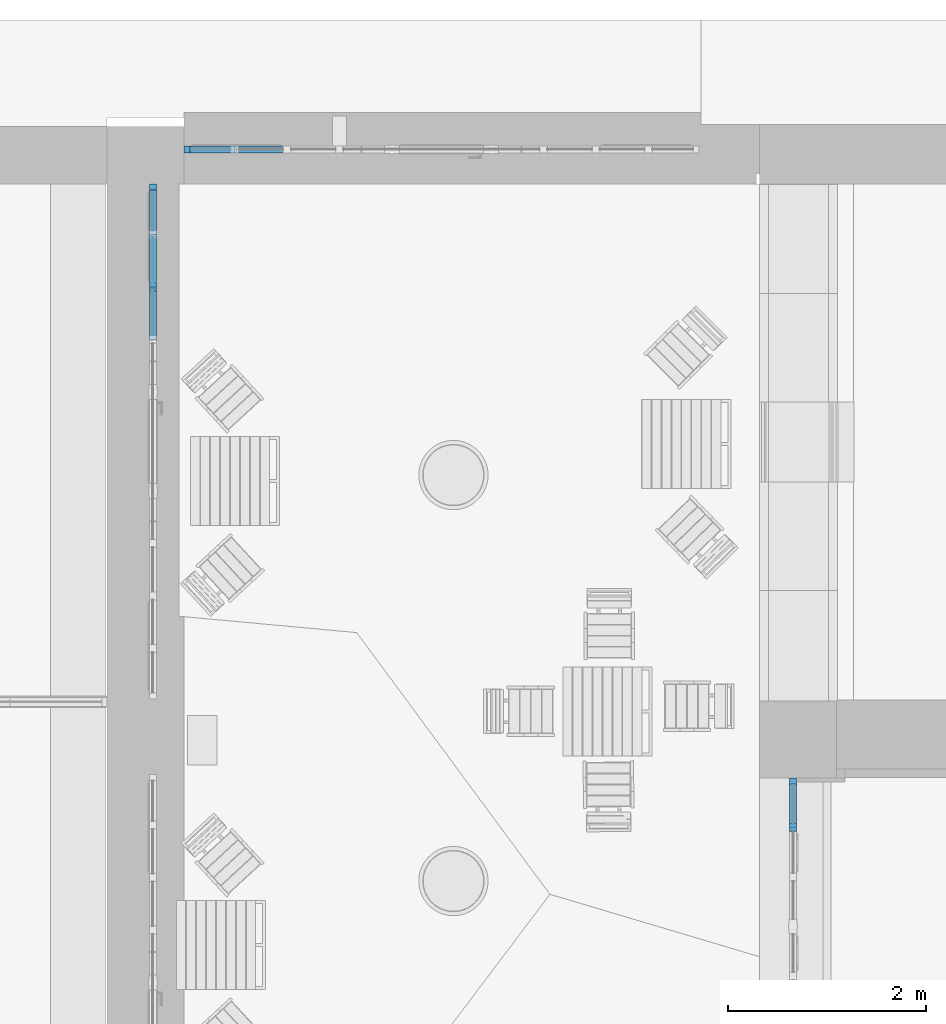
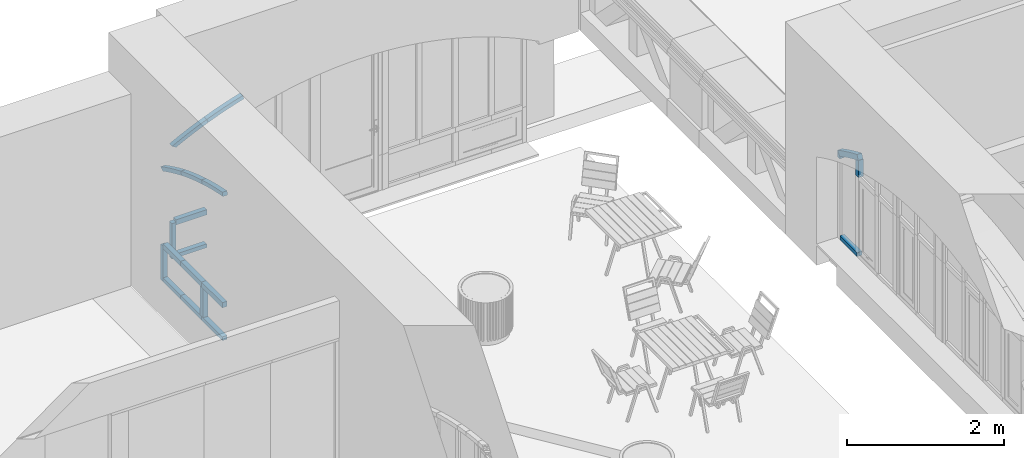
# One storey, part 47 of 88: 20 members, 3 elements without a shape of their own.
"""IFC2X3 building model written with IfcOpenShell, lengths in millimetres."""

from ifc_helpers import new_model, entity, si_unit, converted_unit, derived_unit, direction, frame, frame_2d, origin, place, context, subcontext, project, spatial, polyline, circle_curve, parameter, trimmed, segment, composite_curve, rectangle, outline, extrude, source, transform, mapped, material, type_object, type_shapes, element, aggregate, save


model = new_model("IFC2X3")

# Units and contexts
model_context = context("Model", 3, precision=0.01, world=origin(), true_north=direction((6.123031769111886e-17, 1.0)))
body_context = subcontext(model_context, "Body", "Model", "MODEL_VIEW")
ifc_project = project(units=[si_unit("LENGTHUNIT", "METRE", prefix="MILLI"), si_unit("AREAUNIT", "SQUARE_METRE"), si_unit("VOLUMEUNIT", "CUBIC_METRE"), converted_unit("PLANEANGLEUNIT", "DEGREE", entity("IfcPlaneAngleMeasure", 0.017453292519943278), si_unit("PLANEANGLEUNIT", "RADIAN"), dimensions=[0, 0, 0, 0, 0, 0, 0]), si_unit("MASSUNIT", "GRAM", prefix="KILO"), derived_unit("MASSDENSITYUNIT", [(si_unit("MASSUNIT", "GRAM", prefix="KILO"), 1), (si_unit("LENGTHUNIT", "METRE"), -3)]), derived_unit("IONCONCENTRATIONUNIT", [(si_unit("MASSUNIT", "GRAM", prefix="KILO"), 1), (si_unit("LENGTHUNIT", "METRE"), -3)]), derived_unit("MOMENTOFINERTIAUNIT", [(si_unit("LENGTHUNIT", "METRE"), 4)]), si_unit("TIMEUNIT", "SECOND"), si_unit("FREQUENCYUNIT", "HERTZ"), si_unit("THERMODYNAMICTEMPERATUREUNIT", "DEGREE_CELSIUS"), derived_unit("THERMALTRANSMITTANCEUNIT", [(si_unit("MASSUNIT", "GRAM", prefix="KILO"), 1), (si_unit("THERMODYNAMICTEMPERATUREUNIT", "KELVIN"), -1), (si_unit("TIMEUNIT", "SECOND"), -3)]), derived_unit("THERMALCONDUCTANCEUNIT", [(si_unit("MASSUNIT", "GRAM", prefix="KILO"), 1), (si_unit("THERMODYNAMICTEMPERATUREUNIT", "KELVIN"), -1), (si_unit("TIMEUNIT", "SECOND"), -3), (si_unit("LENGTHUNIT", "METRE"), 1)]), derived_unit("VOLUMETRICFLOWRATEUNIT", [(si_unit("LENGTHUNIT", "METRE", prefix="DECI"), 3), (si_unit("TIMEUNIT", "SECOND"), -1)]), derived_unit("MASSFLOWRATEUNIT", [(si_unit("MASSUNIT", "GRAM", prefix="KILO"), 1), (si_unit("TIMEUNIT", "SECOND"), -1)]), derived_unit("ROTATIONALFREQUENCYUNIT", [(si_unit("TIMEUNIT", "SECOND"), -1)]), si_unit("ELECTRICCURRENTUNIT", "AMPERE"), si_unit("ELECTRICVOLTAGEUNIT", "VOLT"), si_unit("POWERUNIT", "WATT"), si_unit("FORCEUNIT", "NEWTON", prefix="KILO"), si_unit("ILLUMINANCEUNIT", "LUX"), si_unit("LUMINOUSFLUXUNIT", "LUMEN"), si_unit("LUMINOUSINTENSITYUNIT", "CANDELA"), si_unit("ENERGYUNIT", "JOULE"), derived_unit("USERDEFINED", [(si_unit("MASSUNIT", "GRAM", prefix="KILO"), -1), (si_unit("LENGTHUNIT", "METRE"), -2), (si_unit("TIMEUNIT", "SECOND"), 3), (si_unit("LUMINOUSFLUXUNIT", "LUMEN"), 1)]), derived_unit("USERDEFINED", [(si_unit("MASSUNIT", "GRAM", prefix="KILO"), 1), (si_unit("TIMEUNIT", "SECOND"), -3), (si_unit("LENGTHUNIT", "METRE"), 3), (si_unit("ELECTRICCURRENTUNIT", "AMPERE"), -2)]), derived_unit("SOUNDPOWERUNIT", [(si_unit("MASSUNIT", "GRAM", prefix="KILO"), 1), (si_unit("TIMEUNIT", "SECOND"), -3), (si_unit("LENGTHUNIT", "METRE"), 2)]), derived_unit("SOUNDPRESSUREUNIT", [(si_unit("MASSUNIT", "GRAM", prefix="KILO"), 1), (si_unit("LENGTHUNIT", "METRE"), -1), (si_unit("TIMEUNIT", "SECOND"), -2)]), derived_unit("LINEARVELOCITYUNIT", [(si_unit("LENGTHUNIT", "METRE"), 1), (si_unit("TIMEUNIT", "SECOND"), -1)]), si_unit("PRESSUREUNIT", "PASCAL"), derived_unit("USERDEFINED", [(si_unit("MASSUNIT", "GRAM", prefix="KILO"), 1), (si_unit("LENGTHUNIT", "METRE"), -2), (si_unit("TIMEUNIT", "SECOND"), -2)]), derived_unit("LINEARFORCEUNIT", [(si_unit("MASSUNIT", "GRAM", prefix="KILO"), 1), (si_unit("TIMEUNIT", "SECOND"), -2)]), derived_unit("PLANARFORCEUNIT", [(si_unit("MASSUNIT", "GRAM", prefix="KILO"), 1), (si_unit("LENGTHUNIT", "METRE"), -1), (si_unit("TIMEUNIT", "SECOND"), -2)]), derived_unit("SPECIFICHEATCAPACITYUNIT", [(si_unit("THERMODYNAMICTEMPERATUREUNIT", "KELVIN"), -1), (si_unit("LENGTHUNIT", "METRE"), 2), (si_unit("TIMEUNIT", "SECOND"), -2)]), derived_unit("HEATFLUXDENSITYUNIT", [(si_unit("MASSUNIT", "GRAM", prefix="KILO"), 1), (si_unit("TIMEUNIT", "SECOND"), -3)]), derived_unit("HEATINGVALUEUNIT", [(si_unit("LENGTHUNIT", "METRE"), 2), (si_unit("TIMEUNIT", "SECOND"), -2)]), derived_unit("VAPORPERMEABILITYUNIT", [(si_unit("LENGTHUNIT", "METRE"), -1), (si_unit("TIMEUNIT", "SECOND"), 1)]), derived_unit("DYNAMICVISCOSITYUNIT", [(si_unit("MASSUNIT", "GRAM", prefix="KILO"), 1), (si_unit("TIMEUNIT", "SECOND"), -1), (si_unit("LENGTHUNIT", "METRE"), -1)]), derived_unit("THERMALEXPANSIONCOEFFICIENTUNIT", [(si_unit("THERMODYNAMICTEMPERATUREUNIT", "KELVIN"), -1)]), derived_unit("MODULUSOFELASTICITYUNIT", [(si_unit("MASSUNIT", "GRAM", prefix="KILO"), 1), (si_unit("LENGTHUNIT", "METRE"), -1), (si_unit("TIMEUNIT", "SECOND"), -2)]), derived_unit("ISOTHERMALMOISTURECAPACITYUNIT", [(si_unit("MASSUNIT", "GRAM", prefix="KILO"), -1), (si_unit("LENGTHUNIT", "METRE"), 3)]), derived_unit("MOISTUREDIFFUSIVITYUNIT", [(si_unit("TIMEUNIT", "SECOND"), -1), (si_unit("LENGTHUNIT", "METRE"), 2)]), derived_unit("MASSPERLENGTHUNIT", [(si_unit("MASSUNIT", "GRAM", prefix="KILO"), 1), (si_unit("LENGTHUNIT", "METRE"), -1)]), derived_unit("THERMALRESISTANCEUNIT", [(si_unit("MASSUNIT", "GRAM", prefix="KILO"), -1), (si_unit("TIMEUNIT", "SECOND"), 3), (si_unit("THERMODYNAMICTEMPERATUREUNIT", "KELVIN"), 1)]), derived_unit("ACCELERATIONUNIT", [(si_unit("LENGTHUNIT", "METRE"), 1), (si_unit("TIMEUNIT", "SECOND"), -2)]), derived_unit("ANGULARVELOCITYUNIT", [(si_unit("TIMEUNIT", "SECOND"), -1), (si_unit("PLANEANGLEUNIT", "RADIAN"), 1)]), derived_unit("LINEARSTIFFNESSUNIT", [(si_unit("MASSUNIT", "GRAM", prefix="KILO"), 1), (si_unit("TIMEUNIT", "SECOND"), -2)]), derived_unit("WARPINGCONSTANTUNIT", [(si_unit("LENGTHUNIT", "METRE"), 6)]), derived_unit("LINEARMOMENTUNIT", [(si_unit("MASSUNIT", "GRAM", prefix="KILO"), 1), (si_unit("LENGTHUNIT", "METRE"), 1), (si_unit("TIMEUNIT", "SECOND"), -2)]), derived_unit("TORQUEUNIT", [(si_unit("MASSUNIT", "GRAM", prefix="KILO"), 1), (si_unit("LENGTHUNIT", "METRE"), 2), (si_unit("TIMEUNIT", "SECOND"), -2)])], contexts=[model_context])

# Site, building, storey
site_placement = place(None, origin())
site = spatial("IfcSite", under=ifc_project, at=site_placement, Name="Default", CompositionType="ELEMENT")
building_placement = place(site_placement, origin())
building = spatial("IfcBuilding", under=site, at=building_placement, Name="Eesti Rahvusraamatukogu hoone renoveerimise projekteerimistööd", CompositionType="ELEMENT")
storey_placement = place(building_placement, origin())
storey = spatial("IfcBuildingStorey", under=building, at=storey_placement, Name="1. korrus", CompositionType="ELEMENT", Elevation=0.0)

# Curtain wall, members
curtain_wall_type_1 = type_object("IfcCurtainWallType", Name="Curtain Wall:Ak-02", PredefinedType="NOTDEFINED")
curtain_wall_1_placement = place(storey_placement, origin())
curtain_wall_1 = element("IfcCurtainWall", 1, at=curtain_wall_1_placement, inside=storey, type_object=curtain_wall_type_1, Name="Curtain Wall:Ak-02", ObjectType="Curtain Wall:Ak-02")
ifc_material = material(Name="LUMION_dark steel window frames")
member_type_1 = type_object("IfcMemberType", Name="Rectangular Mullion:NEW 80x70mm", PredefinedType="MULLION", material=ifc_material)
shared_shape_1 = source(origin(), body_context, "Body", "SweptSolid", [
    extrude(outline(composite_curve([segment(trimmed(circle_curve(frame_2d((5127.857298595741, 1916.0902897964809), x_axis=(-0.9185017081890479, -0.39541701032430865)), 5520.7156800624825), [parameter(354.2613575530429)], [parameter(359.99999999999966)], True, "PARAMETER"), True, "CONTINUOUS"), segment(polyline([(57.07051603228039, -266.8945992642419), (130.55065268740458, -235.2612384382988)]), True, "CONTINUOUS"), segment(trimmed(circle_curve(frame_2d((5127.857298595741, 1916.0902897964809), x_axis=(-0.9185017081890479, -0.39541701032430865)), 5440.7156800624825), [parameter(354.52804849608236)], [parameter(359.99999999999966)], True, "PARAMETER"), False, "CONTINUOUS"), segment(polyline([(-51.82617782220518, 251.07791885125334), (-135.79499089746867, 251.0779188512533)]), True, "CONTINUOUS")], self_intersect=False)), frame((-53.11529804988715, -35.0, -267.709798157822), z_axis=(0.0, -1.0, 0.0), x_axis=(-0.918501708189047, 0.0, 0.3954170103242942)), (0.0, 0.0, -1.0), 69.99999999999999),
])
type_shapes(member_type_1, [shared_shape_1])
member_1_placement = place(curtain_wall_1_placement, frame((-36440.0, 47490.0, 3565.568744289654), z_axis=(0.0, -0.9248280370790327, 0.38038546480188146), x_axis=(0.0, 0.38038546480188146, 0.9248280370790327)))
member_1 = element("IfcMember", 2, at=member_1_placement, type_object=member_type_1, material=ifc_material, Name="Rectangular Mullion:NEW 80x70mm", ObjectType="Rectangular Mullion:NEW 80x70mm", context=body_context, shape_type="MappedRepresentation", body=[
    mapped(shared_shape_1, transform((0.0, 0.0, 0.0), scale=1.0)),
])
member_type_2 = type_object("IfcMemberType", Name="Rectangular Mullion:NEW 80x70mm", PredefinedType="MULLION", material=ifc_material)
shared_shape_2 = source(origin(), body_context, "Body", "SweptSolid", [
    extrude(outline(composite_curve([segment(polyline([(-151.82490852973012, -33.91383256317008), (113.68279751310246, -33.91383256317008)]), True, "CONTINUOUS"), segment(trimmed(circle_curve(frame_2d((-4921.968809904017, -2093.9138325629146), x_axis=(0.9570819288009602, 0.2898174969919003)), 5440.715680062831), [parameter(5.401610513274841)], [parameter(5.510531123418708)], True, "PARAMETER"), True, "CONTINUOUS"), segment(trimmed(circle_curve(frame_2d((-4921.968809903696, -2093.9138325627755), x_axis=(0.9248280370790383, 0.38038546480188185)), 5440.7156800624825), [parameter(0.0)], [parameter(0.8043376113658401)], True, "PARAMETER"), True, "CONTINUOUS"), segment(polyline([(80.20942675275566, 46.08616743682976), (-151.82490852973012, 46.08616743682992)]), True, "CONTINUOUS"), segment(polyline([(-151.82490852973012, 46.08616743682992), (-151.82490852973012, -33.91383256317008)]), True, "CONTINUOUS")], self_intersect=False)), frame((6.086167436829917, -35.0, -151.82490852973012), z_axis=(0.0, 1.0, 0.0), x_axis=(0.0, 0.0, -1.0)), (0.0, 0.0, 1.0), 69.99999999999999),
])
type_shapes(member_type_2, [shared_shape_2])
member_2_placement = place(curtain_wall_1_placement, frame((-36440.0, 47490.0, 3230.0), z_axis=(0.0, 0.0, -1.0), x_axis=(0.0, -1.0, 0.0)))
member_2 = element("IfcMember", 3, at=member_2_placement, type_object=member_type_2, material=ifc_material, Name="Rectangular Mullion:NEW 80x70mm", ObjectType="Rectangular Mullion:NEW 80x70mm", context=body_context, shape_type="MappedRepresentation", body=[
    mapped(shared_shape_2, transform((0.0, 0.0, 0.0), scale=1.0)),
])
member_type_3 = type_object("IfcMemberType", Name="Rectangular Mullion:NEW 60x70mm", PredefinedType="MULLION", material=ifc_material)
shared_shape_3 = source(origin(), body_context, "Body", "SweptSolid", [
    extrude(rectangle(XDim=60.0, YDim=70.0, at=frame_2d((0.0, 3.552713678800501e-15), x_axis=(1.0, 0.0))), frame((-30.0, 0.0, -440.0), z_axis=(0.0, 0.0, 1.0), x_axis=(-1.0, 0.0, 0.0)), (0.0, 0.0, 1.0), 439.9999999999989),
])
type_shapes(member_type_3, [shared_shape_3])
member_3_placement = place(curtain_wall_1_placement, frame((-36440.0, 47930.0, 1980.0), z_axis=(0.0, 1.0, 0.0), x_axis=(0.0, 0.0, -1.0)))
member_3 = element("IfcMember", 4, at=member_3_placement, type_object=member_type_3, material=ifc_material, Name="Rectangular Mullion:NEW 60x70mm", ObjectType="Rectangular Mullion:NEW 60x70mm", context=body_context, shape_type="MappedRepresentation", body=[
    mapped(shared_shape_3, transform((0.0, 0.0, 0.0), scale=1.0)),
])
member_type_4 = type_object("IfcMemberType", Name="Rectangular Mullion:NEW 60x70mm", PredefinedType="MULLION", material=ifc_material)
shared_shape_4 = source(origin(), body_context, "Body", "SweptSolid", [
    extrude(outline(polyline([(-64.66369681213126, -30.0), (35.336303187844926, -30.0), (35.336303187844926, 30.0), (-6.008909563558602, 30.0), (-64.66369681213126, -30.0)])), frame((-30.0, -35.0, -64.66369681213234), z_axis=(0.0, 1.0, 0.0), x_axis=(0.0, 0.0, -1.0)), (0.0, 0.0, 1.0), 69.99999999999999),
])
type_shapes(member_type_4, [shared_shape_4])
member_4_placement = place(curtain_wall_1_placement, frame((-36440.0, 47990.0, 3330.0), z_axis=(0.0, 0.0, 1.0), x_axis=(0.0, 1.0, 0.0)))
member_4 = element("IfcMember", 5, at=member_4_placement, type_object=member_type_4, material=ifc_material, Name="Rectangular Mullion:NEW 60x70mm", ObjectType="Rectangular Mullion:NEW 60x70mm", context=body_context, shape_type="MappedRepresentation", body=[
    mapped(shared_shape_4, transform((0.0, 0.0, 0.0), scale=1.0)),
])
aggregate(curtain_wall_1, [member_1, member_2, member_3, member_4])

# Curtain wall, member
curtain_wall_type_2 = type_object("IfcCurtainWallType", Name="Curtain Wall:Ak-05", PredefinedType="NOTDEFINED")
curtain_wall_2_placement = place(storey_placement, origin())
curtain_wall_2 = element("IfcCurtainWall", 6, at=curtain_wall_2_placement, inside=storey, type_object=curtain_wall_type_2, Name="Curtain Wall:Ak-05", ObjectType="Curtain Wall:Ak-05")
member_type_5 = type_object("IfcMemberType", Name="Rectangular Mullion:NEW 60x70mm", PredefinedType="MULLION", material=ifc_material)
shared_shape_5 = source(origin(), body_context, "Body", "SweptSolid", [
    extrude(outline(composite_curve([segment(polyline([(-44.19959331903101, -278.92780712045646), (15.800406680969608, -278.9278071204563)]), True, "CONTINUOUS"), segment(trimmed(circle_curve(frame_2d((5479.080973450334, -278.9278071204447), x_axis=(-0.9948301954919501, 0.10155236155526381)), 5463.280566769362), [parameter(3.5622212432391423e-13)], [parameter(5.828569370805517)], True, "PARAMETER"), False, "CONTINUOUS"), segment(polyline([(44.04449918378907, 275.8812362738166), (-15.645312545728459, 281.97437796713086)]), True, "CONTINUOUS"), segment(trimmed(circle_curve(frame_2d((5479.080973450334, -278.9278071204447), x_axis=(-0.9948301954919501, 0.10155236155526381)), 5523.280566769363), [parameter(3.5622212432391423e-13)], [parameter(5.828569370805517)], True, "PARAMETER"), True, "CONTINUOUS")], self_intersect=False)), frame((-44.19959331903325, -35.0, -278.9278071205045), z_axis=(0.0, 1.0, 0.0), x_axis=(-0.9948301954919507, 0.0, 0.10155236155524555)), (0.0, 0.0, 1.0), 69.99999999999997),
])
type_shapes(member_type_5, [shared_shape_5])
member_5_placement = place(curtain_wall_2_placement, frame((-42080.0, 54340.0, 1939.304710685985), z_axis=(-0.9256428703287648, 0.0, -0.37839830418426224), x_axis=(-0.37839830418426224, 0.0, 0.9256428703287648)))
member_5 = element("IfcMember", 7, at=member_5_placement, type_object=member_type_5, material=ifc_material, Name="Rectangular Mullion:NEW 60x70mm", ObjectType="Rectangular Mullion:NEW 60x70mm", context=body_context, shape_type="MappedRepresentation", body=[
    mapped(shared_shape_5, transform((0.0, 0.0, 0.0), scale=1.0)),
])

# Curtain wall, members
curtain_wall_3_placement = place(storey_placement, origin())
curtain_wall_3 = element("IfcCurtainWall", 8, at=curtain_wall_3_placement, inside=storey, type_object=curtain_wall_type_2, Name="Curtain Wall:Ak-05", ObjectType="Curtain Wall:Ak-05")
member_type_6 = type_object("IfcMemberType", Name="Rectangular Mullion:NEW 60x70mm", PredefinedType="MULLION", material=ifc_material)
shared_shape_6 = source(origin(), body_context, "Body", "SweptSolid", [
    extrude(outline(composite_curve([segment(trimmed(circle_curve(frame_2d((4549.812785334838, 3066.2072493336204), x_axis=(-0.8006634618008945, -0.5991143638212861)), 5523.280566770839), [parameter(354.15250498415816)], [parameter(359.99999999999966)], True, "PARAMETER"), True, "CONTINUOUS"), segment(polyline([(127.52384624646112, -242.86947363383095), (175.56365395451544, -206.92261180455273)]), True, "CONTINUOUS"), segment(trimmed(circle_curve(frame_2d((4549.812785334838, 3066.2072493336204), x_axis=(-0.8006634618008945, -0.5991143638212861)), 5463.280566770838), [parameter(354.53073311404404)], [parameter(359.99999999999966)], True, "PARAMETER"), False, "CONTINUOUS"), segment(polyline([(-116.49037438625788, 224.89604271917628), (-186.59712581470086, 224.89604271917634)]), True, "CONTINUOUS")], self_intersect=False)), frame((-43.402905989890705, -35.0, -270.85808154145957), z_axis=(0.0, -1.0, 0.0), x_axis=(-0.800663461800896, 0.0, 0.5991143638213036)), (0.0, 0.0, -1.0), 69.99999999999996),
])
type_shapes(member_type_6, [shared_shape_6])
member_6_placement = place(curtain_wall_3_placement, frame((-42905.0, 53480.0, 1939.304710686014), z_axis=(0.0, -0.9256428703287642, 0.3783983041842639), x_axis=(0.0, 0.3783983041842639, 0.9256428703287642)))
member_6 = element("IfcMember", 9, at=member_6_placement, type_object=member_type_6, material=ifc_material, Name="Rectangular Mullion:NEW 60x70mm", ObjectType="Rectangular Mullion:NEW 60x70mm", context=body_context, shape_type="MappedRepresentation", body=[
    mapped(shared_shape_6, transform((0.0, 0.0, 0.0), scale=1.0)),
])
member_type_7 = type_object("IfcMemberType", Name="Rectangular Mullion:NEW 60x70mm", PredefinedType="MULLION", material=ifc_material)
shared_shape_7 = source(origin(), body_context, "Body", "SweptSolid", [
    extrude(outline(composite_curve([segment(polyline([(-44.19959331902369, -278.9278071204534), (15.8004066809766, -278.92780712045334)]), True, "CONTINUOUS"), segment(trimmed(circle_curve(frame_2d((5479.0809734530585, -278.9278071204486), x_axis=(-0.9948301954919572, 0.10155236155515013)), 5463.28056677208), [parameter(3.5622212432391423e-13)], [parameter(5.828569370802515)], True, "PARAMETER"), False, "CONTINUOUS"), segment(polyline([(44.04449918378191, 275.88123627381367), (-15.645312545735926, 281.97437796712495)]), True, "CONTINUOUS"), segment(trimmed(circle_curve(frame_2d((5479.0809734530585, -278.9278071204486), x_axis=(-0.9948301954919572, 0.10155236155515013)), 5523.28056677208), [parameter(3.5622212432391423e-13)], [parameter(5.828569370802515)], True, "PARAMETER"), True, "CONTINUOUS")], self_intersect=False)), frame((-44.199593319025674, -35.0, -278.9278071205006), z_axis=(0.0, 1.0, 0.0), x_axis=(-0.994830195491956, 0.0, 0.1015523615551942)), (0.0, 0.0, 1.0), 70.0),
])
type_shapes(member_type_7, [shared_shape_7])
member_7_placement = place(curtain_wall_3_placement, frame((-42905.0, 52950.0, 2125.118079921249), z_axis=(0.0, -0.9592847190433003, 0.2824408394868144), x_axis=(0.0, 0.2824408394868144, 0.9592847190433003)))
member_7 = element("IfcMember", 10, at=member_7_placement, type_object=member_type_7, material=ifc_material, Name="Rectangular Mullion:NEW 60x70mm", ObjectType="Rectangular Mullion:NEW 60x70mm", context=body_context, shape_type="MappedRepresentation", body=[
    mapped(shared_shape_7, transform((0.0, 0.0, 0.0), scale=1.0)),
])
member_type_8 = type_object("IfcMemberType", Name="Rectangular Mullion:NEW 60x70mm", PredefinedType="MULLION", material=ifc_material)
shared_shape_8 = source(origin(), body_context, "Body", "SweptSolid", [
    extrude(outline(composite_curve([segment(polyline([(-43.38278695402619, -270.80676601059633), (16.61721304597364, -270.8067660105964)]), True, "CONTINUOUS"), segment(trimmed(circle_curve(frame_2d((5479.897779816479, -270.8067660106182), x_axis=(-0.9951275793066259, 0.0985956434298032)), 5463.280566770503), [parameter(3.5622212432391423e-13)], [parameter(5.658307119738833)], True, "PARAMETER"), False, "CONTINUOUS"), segment(polyline([(43.23661433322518, 267.848896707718), (-16.471040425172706, 273.76463531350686)]), True, "CONTINUOUS"), segment(trimmed(circle_curve(frame_2d((5479.897779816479, -270.8067660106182), x_axis=(-0.9951275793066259, 0.0985956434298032)), 5523.280566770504), [parameter(3.5622212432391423e-13)], [parameter(5.658307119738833)], True, "PARAMETER"), True, "CONTINUOUS")], self_intersect=False)), frame((-43.38278695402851, -35.0, -270.8067660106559), z_axis=(0.0, 1.0, 0.0), x_axis=(-0.9951275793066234, 0.0, 0.09859564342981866)), (0.0, 0.0, 1.0), 69.99999999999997),
])
type_shapes(member_type_8, [shared_shape_8])
member_8_placement = place(curtain_wall_3_placement, frame((-42905.0, 52420.0, 2253.1112564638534), z_axis=(0.0, -0.9824581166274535, 0.18648337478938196), x_axis=(0.0, 0.18648337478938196, 0.9824581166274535)))
member_8 = element("IfcMember", 11, at=member_8_placement, type_object=member_type_8, material=ifc_material, Name="Rectangular Mullion:NEW 60x70mm", ObjectType="Rectangular Mullion:NEW 60x70mm", context=body_context, shape_type="MappedRepresentation", body=[
    mapped(shared_shape_8, transform((0.0, 0.0, 0.0), scale=1.0)),
])

# Member
member_type_9 = type_object("IfcMemberType", Name="Rectangular Mullion:NEW 60x70mm", PredefinedType="MULLION", material=ifc_material)
shared_shape_9 = source(origin(), body_context, "Body", "SweptSolid", [
    extrude(outline(composite_curve([segment(polyline([(-43.402905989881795, -270.8580815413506), (16.59709401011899, -270.85808154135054)]), True, "CONTINUOUS"), segment(trimmed(circle_curve(frame_2d((5479.877660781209, -270.8580815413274), x_axis=(-0.9947965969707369, 0.10188096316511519)), 5463.280566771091), [parameter(0.37822812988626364)], [parameter(5.847495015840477)], True, "PARAMETER"), False, "CONTINUOUS"), segment(polyline([(41.46886313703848, 249.85710065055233), (-14.66305115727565, 291.85906243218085)]), True, "CONTINUOUS"), segment(trimmed(circle_curve(frame_2d((5479.877660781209, -270.8580815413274), x_axis=(-0.9947965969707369, 0.10188096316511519)), 5523.280566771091), [parameter(3.5622212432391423e-13)], [parameter(5.847495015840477)], True, "PARAMETER"), True, "CONTINUOUS")], self_intersect=False)), frame((-44.32163578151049, -35.0, -288.84651632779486), z_axis=(0.0, 1.0, 0.0), x_axis=(-0.9947965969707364, 0.0, 0.10188096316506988)), (0.0, 0.0, 1.0), 69.99999999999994),
])
type_shapes(member_type_9, [shared_shape_9])
member_9_placement = place(curtain_wall_2_placement, frame((-42590.0, 54340.0, 1699.7706559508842), z_axis=(-0.8822747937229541, 0.0, -0.47073473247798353), x_axis=(-0.47073473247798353, 0.0, 0.8822747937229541)))
member_9 = element("IfcMember", 12, at=member_9_placement, type_object=member_type_9, material=ifc_material, Name="Rectangular Mullion:NEW 60x70mm", ObjectType="Rectangular Mullion:NEW 60x70mm", context=body_context, shape_type="MappedRepresentation", body=[
    mapped(shared_shape_9, transform((0.0, 0.0, 0.0), scale=1.0)),
])

member_type_10 = type_object("IfcMemberType", Name="Rectangular Mullion:NEW 80x70mm", PredefinedType="MULLION", material=ifc_material)
shared_shape_10 = source(origin(), body_context, "Body", "SweptSolid", [
    extrude(rectangle(XDim=80.0, YDim=70.0, at=frame_2d((0.0, -3.552713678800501e-15), x_axis=(1.0, 0.0))), frame((0.0, 0.0, -450.0), z_axis=(0.0, 0.0, 1.0), x_axis=(-1.0, 0.0, 0.0)), (0.0, 0.0, 1.0), 449.9999999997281),
])
type_shapes(member_type_10, [shared_shape_10])
member_10_placement = place(curtain_wall_2_placement, frame((-42530.0, 54340.0, 500.0), z_axis=(-1.0, 0.0, 0.0), x_axis=(0.0, 0.0, 1.0)))
member_10 = element("IfcMember", 13, at=member_10_placement, type_object=member_type_10, material=ifc_material, Name="Rectangular Mullion:NEW 80x70mm", ObjectType="Rectangular Mullion:NEW 80x70mm", context=body_context, shape_type="MappedRepresentation", body=[
    mapped(shared_shape_10, transform((0.0, 0.0, 0.0), scale=1.0)),
])

member_type_11 = type_object("IfcMemberType", Name="Rectangular Mullion:NEW 80x70mm", PredefinedType="MULLION", material=ifc_material)
shared_shape_11 = source(origin(), body_context, "Body", "SweptSolid", [
    extrude(rectangle(XDim=80.0, YDim=70.0, at=frame_2d((0.0, -3.552713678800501e-15), x_axis=(1.0, 0.0))), frame((0.0, 0.0, -530.0), z_axis=(0.0, 0.0, 1.0), x_axis=(-1.0, 0.0, 0.0)), (0.0, 0.0, 1.0), 530.0000000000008),
])
type_shapes(member_type_11, [shared_shape_11])
member_11_placement = place(curtain_wall_3_placement, frame((-42905.0, 52950.0, 500.0), z_axis=(0.0, -1.0, 0.0), x_axis=(0.0, 0.0, 1.0)))
member_11 = element("IfcMember", 14, at=member_11_placement, type_object=member_type_11, material=ifc_material, Name="Rectangular Mullion:NEW 80x70mm", ObjectType="Rectangular Mullion:NEW 80x70mm", context=body_context, shape_type="MappedRepresentation", body=[
    mapped(shared_shape_11, transform((0.0, 0.0, 0.0), scale=1.0)),
])

member_12_placement = place(curtain_wall_3_placement, frame((-42905.0, 52420.0, 500.0), z_axis=(0.0, -1.0, 0.0), x_axis=(0.0, 0.0, 1.0)))
member_12 = element("IfcMember", 15, at=member_12_placement, type_object=member_type_11, material=ifc_material, Name="Rectangular Mullion:NEW 80x70mm", ObjectType="Rectangular Mullion:NEW 80x70mm", context=body_context, shape_type="MappedRepresentation", body=[
    mapped(shared_shape_11, transform((0.0, 0.0, 0.0), scale=1.0)),
])

member_type_12 = type_object("IfcMemberType", Name="Rectangular Mullion:NEW 80x70mm", PredefinedType="MULLION", material=ifc_material)
shared_shape_12 = source(origin(), body_context, "Body", "SweptSolid", [
    extrude(rectangle(XDim=80.0, YDim=70.0, at=frame_2d((0.0, -3.552713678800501e-15), x_axis=(1.0, 0.0))), frame((0.0, 0.0, -450.0), z_axis=(0.0, 0.0, 1.0), x_axis=(-1.0, 0.0, 0.0)), (0.0, 0.0, 1.0), 449.9999999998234),
])
type_shapes(member_type_12, [shared_shape_12])
member_13_placement = place(curtain_wall_3_placement, frame((-42905.0, 53480.0, 500.0), z_axis=(0.0, -1.0, 0.0), x_axis=(0.0, 0.0, 1.0)))
member_13 = element("IfcMember", 16, at=member_13_placement, type_object=member_type_12, material=ifc_material, Name="Rectangular Mullion:NEW 80x70mm", ObjectType="Rectangular Mullion:NEW 80x70mm", context=body_context, shape_type="MappedRepresentation", body=[
    mapped(shared_shape_12, transform((0.0, 0.0, 0.0), scale=1.0)),
])

member_type_13 = type_object("IfcMemberType", Name="Rectangular Mullion:NEW 80x70mm", PredefinedType="MULLION", material=ifc_material)
shared_shape_13 = source(origin(), body_context, "Body", "SweptSolid", [
    extrude(rectangle(XDim=80.0, YDim=70.0, at=frame_2d((0.0, 3.552713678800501e-15), x_axis=(1.0, 0.0))), frame((0.0, 0.0, -450.0), z_axis=(0.0, 0.0, 1.0), x_axis=(-1.0, 0.0, 0.0)), (0.0, 0.0, 1.0), 450.00000000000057),
])
type_shapes(member_type_13, [shared_shape_13])
member_14_placement = place(curtain_wall_3_placement, frame((-42905.0, 52950.0, 10.0), z_axis=(0.0, 0.0, -1.0), x_axis=(0.0, -1.0, 0.0)))
member_14 = element("IfcMember", 17, at=member_14_placement, type_object=member_type_13, material=ifc_material, Name="Rectangular Mullion:NEW 80x70mm", ObjectType="Rectangular Mullion:NEW 80x70mm", context=body_context, shape_type="MappedRepresentation", body=[
    mapped(shared_shape_13, transform((0.0, 0.0, 0.0), scale=1.0)),
])

member_type_14 = type_object("IfcMemberType", Name="Rectangular Mullion:NEW 60x70mm", PredefinedType="MULLION", material=ifc_material)
shared_shape_14 = source(origin(), body_context, "Body", "SweptSolid", [
    extrude(rectangle(XDim=60.0, YDim=70.0, at=frame_2d((0.0, 3.552713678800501e-15), x_axis=(1.0, 0.0))), frame((-30.0, 0.0, -550.0), z_axis=(0.0, 0.0, 1.0), x_axis=(-1.0, 0.0, 0.0)), (0.0, 0.0, 1.0), 550.0000000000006),
])
type_shapes(member_type_14, [shared_shape_14])
member_15_placement = place(curtain_wall_2_placement, frame((-42590.0, 54340.0, -50.0), z_axis=(0.0, 0.0, -1.0), x_axis=(-1.0, 0.0, 0.0)))
member_15 = element("IfcMember", 18, at=member_15_placement, type_object=member_type_14, material=ifc_material, Name="Rectangular Mullion:NEW 60x70mm", ObjectType="Rectangular Mullion:NEW 60x70mm", context=body_context, shape_type="MappedRepresentation", body=[
    mapped(shared_shape_14, transform((0.0, 0.0, 0.0), scale=1.0)),
])

member_type_15 = type_object("IfcMemberType", Name="Rectangular Mullion:NEW 60x70mm", PredefinedType="MULLION", material=ifc_material)
shared_shape_15 = source(origin(), body_context, "Body", "SweptSolid", [
    extrude(rectangle(XDim=60.0, YDim=70.0, at=frame_2d((0.0, 3.552713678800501e-15), x_axis=(1.0, 0.0))), frame((-30.0, 0.0, -550.0), z_axis=(0.0, 0.0, 1.0), x_axis=(-1.0, 0.0, 0.0)), (0.0, 0.0, 1.0), 550.0000000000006),
])
type_shapes(member_type_15, [shared_shape_15])
member_16_placement = place(curtain_wall_3_placement, frame((-42905.0, 53990.0, 500.0), z_axis=(0.0, 0.0, 1.0), x_axis=(0.0, 1.0, 0.0)))
member_16 = element("IfcMember", 19, at=member_16_placement, type_object=member_type_15, material=ifc_material, Name="Rectangular Mullion:NEW 60x70mm", ObjectType="Rectangular Mullion:NEW 60x70mm", context=body_context, shape_type="MappedRepresentation", body=[
    mapped(shared_shape_15, transform((0.0, 0.0, 0.0), scale=1.0)),
])

member_type_16 = type_object("IfcMemberType", Name="Rectangular Mullion:NEW 60x70mm", PredefinedType="MULLION", material=ifc_material)
shared_shape_16 = source(origin(), body_context, "Body", "SweptSolid", [
    extrude(rectangle(XDim=60.0, YDim=70.0, at=frame_2d((0.0, 3.552713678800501e-15), x_axis=(1.0, 0.0))), frame((-30.0, 0.0, -450.0), z_axis=(0.0, 0.0, 1.0), x_axis=(-1.0, 0.0, 0.0)), (0.0, 0.0, 1.0), 449.9999999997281),
])
type_shapes(member_type_16, [shared_shape_16])
member_17_placement = place(curtain_wall_2_placement, frame((-42080.0, 54340.0, -50.0), z_axis=(1.0, 0.0, 0.0), x_axis=(0.0, 0.0, -1.0)))
member_17 = element("IfcMember", 20, at=member_17_placement, type_object=member_type_16, material=ifc_material, Name="Rectangular Mullion:NEW 60x70mm", ObjectType="Rectangular Mullion:NEW 60x70mm", context=body_context, shape_type="MappedRepresentation", body=[
    mapped(shared_shape_16, transform((0.0, 0.0, 0.0), scale=1.0)),
])

aggregate(curtain_wall_2, [member_5, member_9, member_10, member_15, member_17])

member_type_17 = type_object("IfcMemberType", Name="Rectangular Mullion:NEW 60x70mm", PredefinedType="MULLION", material=ifc_material)
shared_shape_17 = source(origin(), body_context, "Body", "SweptSolid", [
    extrude(rectangle(XDim=60.0, YDim=70.0, at=frame_2d((0.0, 3.552713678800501e-15), x_axis=(1.0, 0.0))), frame((-30.0, 0.0, -530.0), z_axis=(0.0, 0.0, 1.0), x_axis=(-1.0, 0.0, 0.0)), (0.0, 0.0, 1.0), 530.0000000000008),
])
type_shapes(member_type_17, [shared_shape_17])
member_18_placement = place(curtain_wall_3_placement, frame((-42905.0, 52950.0, -50.0), z_axis=(0.0, 1.0, 0.0), x_axis=(0.0, 0.0, -1.0)))
member_18 = element("IfcMember", 21, at=member_18_placement, type_object=member_type_17, material=ifc_material, Name="Rectangular Mullion:NEW 60x70mm", ObjectType="Rectangular Mullion:NEW 60x70mm", context=body_context, shape_type="MappedRepresentation", body=[
    mapped(shared_shape_17, transform((0.0, 0.0, 0.0), scale=1.0)),
])

member_type_18 = type_object("IfcMemberType", Name="Rectangular Mullion:NEW 60x70mm", PredefinedType="MULLION", material=ifc_material)
shared_shape_18 = source(origin(), body_context, "Body", "SweptSolid", [
    extrude(rectangle(XDim=60.0, YDim=70.0, at=frame_2d((0.0, 3.552713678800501e-15), x_axis=(1.0, 0.0))), frame((-30.0, 0.0, -530.0), z_axis=(0.0, 0.0, 1.0), x_axis=(-1.0, 0.0, 0.0)), (0.0, 0.0, 1.0), 530.0000000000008),
])
type_shapes(member_type_18, [shared_shape_18])
member_19_placement = place(curtain_wall_3_placement, frame((-42905.0, 53480.0, -50.0), z_axis=(0.0, 1.0, 0.0), x_axis=(0.0, 0.0, -1.0)))
member_19 = element("IfcMember", 22, at=member_19_placement, type_object=member_type_18, material=ifc_material, Name="Rectangular Mullion:NEW 60x70mm", ObjectType="Rectangular Mullion:NEW 60x70mm", context=body_context, shape_type="MappedRepresentation", body=[
    mapped(shared_shape_18, transform((0.0, 0.0, 0.0), scale=1.0)),
])

member_type_19 = type_object("IfcMemberType", Name="Rectangular Mullion:NEW 60x70mm", PredefinedType="MULLION", material=ifc_material)
shared_shape_19 = source(origin(), body_context, "Body", "SweptSolid", [
    extrude(rectangle(XDim=60.0, YDim=70.0, at=frame_2d((0.0, 3.552713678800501e-15), x_axis=(1.0, 0.0))), frame((-30.0, 0.0, -450.0), z_axis=(0.0, 0.0, 1.0), x_axis=(-1.0, 0.0, 0.0)), (0.0, 0.0, 1.0), 449.9999999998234),
])
type_shapes(member_type_19, [shared_shape_19])
member_20_placement = place(curtain_wall_3_placement, frame((-42905.0, 53930.0, -50.0), z_axis=(0.0, 1.0, 0.0), x_axis=(0.0, 0.0, -1.0)))
member_20 = element("IfcMember", 23, at=member_20_placement, type_object=member_type_19, material=ifc_material, Name="Rectangular Mullion:NEW 60x70mm", ObjectType="Rectangular Mullion:NEW 60x70mm", context=body_context, shape_type="MappedRepresentation", body=[
    mapped(shared_shape_19, transform((0.0, 0.0, 0.0), scale=1.0)),
])

aggregate(curtain_wall_3, [member_6, member_7, member_8, member_11, member_12, member_13, member_14, member_16, member_19, member_18, member_20])

save(model, "model.ifc")
